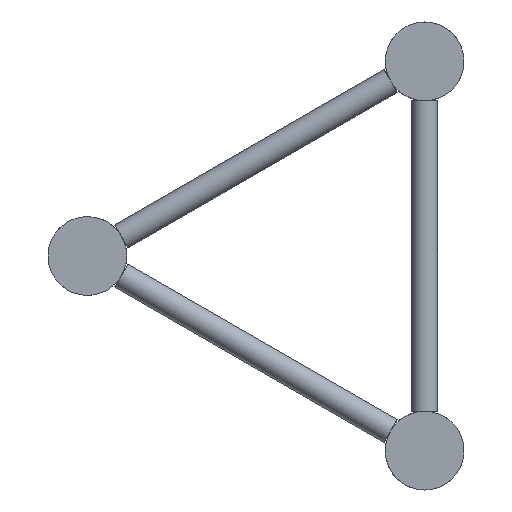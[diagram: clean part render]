
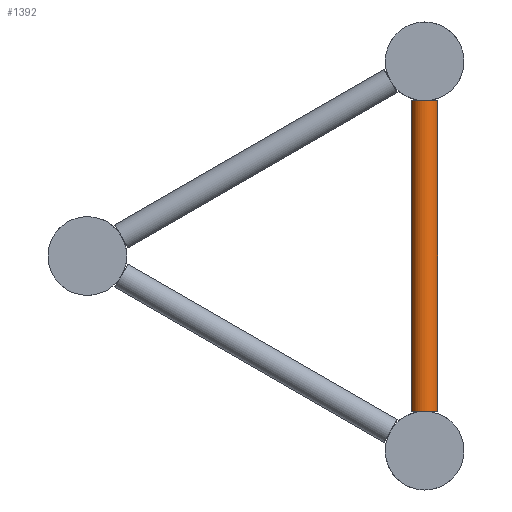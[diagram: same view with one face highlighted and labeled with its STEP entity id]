
A CAD part, left-side view. The second image highlights one B-rep face of the part: STEP entity #1392.
In plain terms, the highlighted cylindrical face has radius 8 mm (diameter 16 mm), a full revolution.
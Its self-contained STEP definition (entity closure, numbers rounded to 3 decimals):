
#74=CIRCLE('',#1534,8.);
#104=CIRCLE('',#1601,8.);
#105=CIRCLE('',#1603,8.);
#106=CIRCLE('',#1605,8.);
#188=FACE_BOUND('',#519,.T.);
#239=CYLINDRICAL_SURFACE('',#1604,8.);
#347=FACE_OUTER_BOUND('',#518,.T.);
#518=EDGE_LOOP('',(#1027,#1028));
#519=EDGE_LOOP('',(#1029,#1030));
#639=VERTEX_POINT('',#2194);
#640=VERTEX_POINT('',#2195);
#645=VERTEX_POINT('',#2216);
#646=VERTEX_POINT('',#2217);
#748=EDGE_CURVE('',#640,#639,#74,.T.);
#794=EDGE_CURVE('',#646,#645,#104,.T.);
#795=EDGE_CURVE('',#639,#640,#105,.T.);
#796=EDGE_CURVE('',#645,#646,#106,.T.);
#1027=ORIENTED_EDGE('',*,*,#748,.T.);
#1028=ORIENTED_EDGE('',*,*,#795,.T.);
#1029=ORIENTED_EDGE('',*,*,#794,.T.);
#1030=ORIENTED_EDGE('',*,*,#796,.T.);
#1392=ADVANCED_FACE('',(#347,#188),#239,.T.);
#1534=AXIS2_PLACEMENT_3D('',#2204,#1845,#1846);
#1601=AXIS2_PLACEMENT_3D('',#2463,#1987,#1988);
#1603=AXIS2_PLACEMENT_3D('',#2465,#1991,#1992);
#1604=AXIS2_PLACEMENT_3D('',#2466,#1993,#1994);
#1605=AXIS2_PLACEMENT_3D('',#2467,#1995,#1996);
#1845=DIRECTION('center_axis',(0.,0.,
1.));
#1846=DIRECTION('ref_axis',(-1.,0.,0.));
#1987=DIRECTION('center_axis',(0.,0.,
-1.));
#1988=DIRECTION('ref_axis',(-1.,0.,0.));
#1991=DIRECTION('center_axis',(0.,0.,
1.));
#1992=DIRECTION('ref_axis',(-1.,0.,0.));
#1993=DIRECTION('center_axis',(0.,0.,
1.));
#1994=DIRECTION('ref_axis',(-1.,0.,0.));
#1995=DIRECTION('center_axis',(0.,0.,
-1.));
#1996=DIRECTION('ref_axis',(-1.,0.,0.));
#2194=CARTESIAN_POINT('',(52.,0.,-214.85));
#2195=CARTESIAN_POINT('',(68.,0.,-214.85));
#2204=CARTESIAN_POINT('Origin',(60.,0.,
-214.85));
#2216=CARTESIAN_POINT('',(52.,0.,-24.15));
#2217=CARTESIAN_POINT('',(68.,0.,-24.15));
#2463=CARTESIAN_POINT('Origin',(60.,0.,-24.15));
#2465=CARTESIAN_POINT('Origin',(60.,0.,
-214.85));
#2466=CARTESIAN_POINT('Origin',(60.,0.,-119.5));
#2467=CARTESIAN_POINT('Origin',(60.,0.,-24.15));
